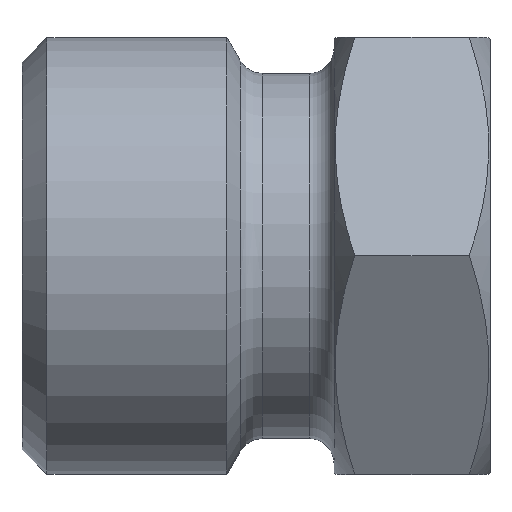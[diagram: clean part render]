
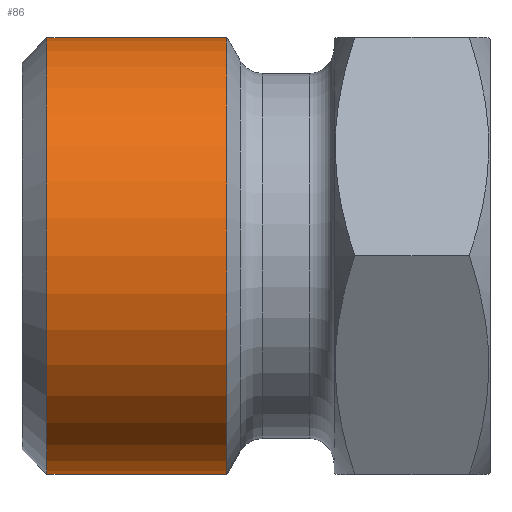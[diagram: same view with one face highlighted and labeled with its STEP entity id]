
A CAD part, top view. The second image highlights one B-rep face of the part: STEP entity #86.
In plain terms, the highlighted cylindrical face has radius 7 mm (diameter 14 mm), a full revolution.
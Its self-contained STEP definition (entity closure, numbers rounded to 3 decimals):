
#86 = ADVANCED_FACE( '', ( #180, #181 ), #182, .T. );
#180 = FACE_OUTER_BOUND( '', #268, .T. );
#181 = FACE_OUTER_BOUND( '', #269, .T. );
#182 = CYLINDRICAL_SURFACE( '', #270, 7. );
#268 = EDGE_LOOP( '', ( #418 ) );
#269 = EDGE_LOOP( '', ( #419 ) );
#270 = AXIS2_PLACEMENT_3D( '', #420, #421, #422 );
#418 = ORIENTED_EDGE( '', *, *, #444, .T. );
#419 = ORIENTED_EDGE( '', *, *, #470, .T. );
#420 = CARTESIAN_POINT( '', ( -60., 0., 0. ) );
#421 = DIRECTION( '', ( 1., 0., 0. ) );
#422 = DIRECTION( '', ( 0., 0., 1. ) );
#444 = EDGE_CURVE( '', #509, #509, #510, .T. );
#470 = EDGE_CURVE( '', #547, #547, #548, .T. );
#509 = VERTEX_POINT( '', #609 );
#510 = CIRCLE( '', #610, 7. );
#547 = VERTEX_POINT( '', #755 );
#548 = CIRCLE( '', #756, 7. );
#609 = CARTESIAN_POINT( '', ( -14.2, 0., -7. ) );
#610 = AXIS2_PLACEMENT_3D( '', #794, #795, #796 );
#755 = CARTESIAN_POINT( '', ( -8.433, 0., 7. ) );
#756 = AXIS2_PLACEMENT_3D( '', #811, #812, #813 );
#794 = CARTESIAN_POINT( '', ( -14.2, 0., 0. ) );
#795 = DIRECTION( '', ( 1., 0., 0. ) );
#796 = DIRECTION( '', ( 0., 0., -1. ) );
#811 = CARTESIAN_POINT( '', ( -8.433, 0., 0. ) );
#812 = DIRECTION( '', ( -1., 0., 0. ) );
#813 = DIRECTION( '', ( 0., 0., 1. ) );
